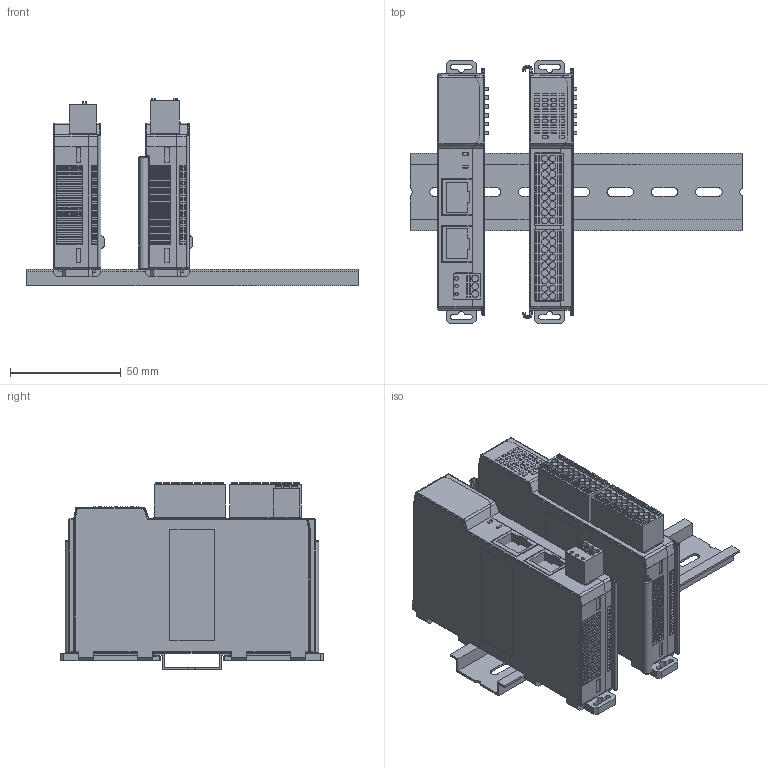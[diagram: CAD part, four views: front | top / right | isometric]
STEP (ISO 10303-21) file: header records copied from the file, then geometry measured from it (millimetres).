
FILE_DESCRIPTION (( 'STEP AP214' ), '1' );
FILE_NAME ('a.STEP', '2023-05-09T08:29:41', ( '' ), ( '' ), 'SwSTEP 2.0', 'SolidWorks 2018', '' );
FILE_SCHEMA (( 'AUTOMOTIVE_DESIGN' ));
Length unit declared in the file: millimetre
Products named in the file (13): GSP002RHC-3.5-18P; 芵隴腑齬; GSP002RC-3.5-03p; a; ECAT植桴翋醱啣酘; ECAT植桴僕蚚醱裔衵; 1縐諶蜇璃; 0805腑; io啣嘐隅絳寢; 錨璃2^ECAT植桴蚾饜极; 2絳嫖翐; 腑瘍路剿; ECAT从站网口主面板左
Assembly tree (15 placements, depth 2):
  a
    ECAT从站网口主面板左
    ECAT植桴僕蚚醱裔衵  x2
    GSP002RC-3.5-03p
    2絳嫖翐
    io啣嘐隅絳寢
    1縐諶蜇璃  x4
    0805腑
    腑瘍路剿
    芵隴腑齬
    GSP002RHC-3.5-18P
    ECAT植桴翋醱啣酘
  錨璃2^ECAT植桴蚾饜极
Bounding box: 150 x 119 x 84.8 mm (x, y, z)
Volume: 326651.7 mm3; surface area: 144635.2 mm2
Topology: 19 solids, 19 shells, 4920 faces, 13410 edges, 8761 vertices
Faces by surface type: plane 3420, cylinder 1301, torus 104, sphere 46, cone 35, bspline 14
Full cylindrical faces by diameter (mm): 0.8 x75, 0.85 x1, 1 x12, 1.5 x3, 1.515 x1, 2.5 x11, 3 x39
Entity records: 143197 total; most frequent: CARTESIAN_POINT 24620, ORIENTED_EDGE 23210, DIRECTION 22457, EDGE_CURVE 11605, LINE 9273, VECTOR 9273, VERTEX_POINT 7675, AXIS2_PLACEMENT_3D 6592
